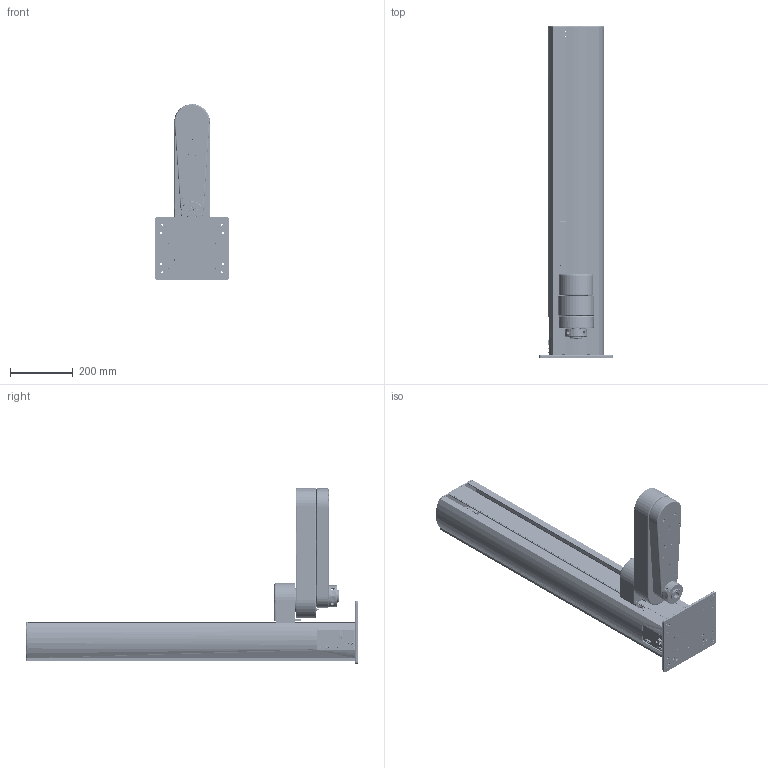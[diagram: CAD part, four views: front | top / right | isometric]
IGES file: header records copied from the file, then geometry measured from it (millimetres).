
Start section: SolidWorks IGES file using analytic representation for surfaces
Global section: file name: C:\_PA_VAULT\Projects\3kg PF400\Shell Models\Assy_Main_Beta_Precise_750_LR_ISO_ShellEXT_3kg_PF400_020817.IGS; native system: SolidWorks 2016; preprocessor: SolidWorks 2016; author: paul; date: 170208.181613; units: millimetre
Bounding box: 235.1 x 1061.95 x 562.05 mm (x, y, z)
Surface area: 2798730.6 mm2 (no closed solid volume)
Topology: 0 solids, 0 shells, 11069 faces, 146479 edges, 146270 vertices
Faces by surface type: revolution 6079, bspline 4990
